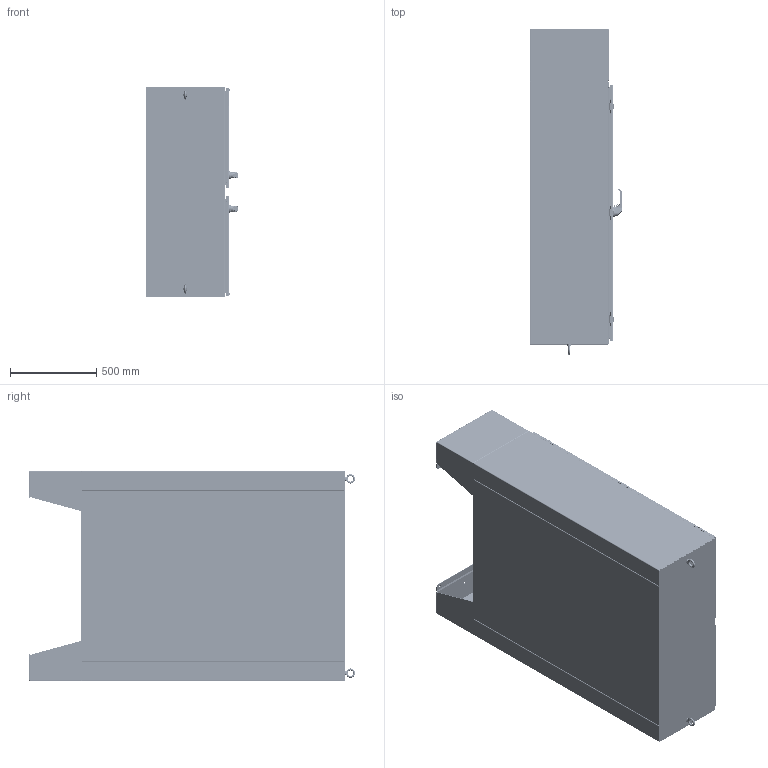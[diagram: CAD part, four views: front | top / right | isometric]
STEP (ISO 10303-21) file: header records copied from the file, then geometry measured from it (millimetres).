
FILE_DESCRIPTION((''),'2;1');
FILE_NAME('MODEL-148_ASM','2024-05-13T09:01:40',('joshi'),('SAGINAW CONTROL & ENGINEERING'),'CREO PARAMETRIC BY PTC INC, 2021284','CREO PARAMETRIC BY PTC INC, 2021284','');
FILE_SCHEMA(('AUTOMOTIVE_DESIGN { 1 0 10303 214 1 1 1 1 }'));
Length unit declared in the file: inch
Products named in the file (88): MODEL-148-BTM; MODEL-148-RS; MODEL-148-LS; MODEL-148-TP; MODEL-148-BCK; MODEL-148-RH-DR; 100837; 111267; 100882; 100955_SCREW_MTG; 100955_PADLOCK_CATCH; 100955_SCREW_LARGE; 100955_INSERT_SHAFT; 100955_INSERT_PKH; 100955_GASKET; 100955_O-RING; 100955_BASE; 100955_SPRING; 100955_HANDLE; 100955_CAM_SHAFT; 100955_HANDLE_ASM; 100955_CAM_ADAPTER; 100955_EARTH_NUT; 100955_FLANGE_NUT; 100955_CAM_NUT; 100955_KEY_INSERT; 100955_SPRING_CAM; 100955_TORSION_SPRING; 100955_SCREW_INSERT; 100955_ASM; 102236; 100030; 102236_ASM; MODEL-148-ROD-UPR-RH; 128146; 128145; 128144; 102482; MODEL-148-ROD-UPR-RH_ASM; 128143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
Assembly tree (200 placements, depth 5):
  MODEL-148_ASM
    MODEL-148-BTM
    MODEL-148-RS
    MODEL-148-LS
    MODEL-148-TP
    MODEL-148-BCK
    MODEL-148-RH-DOOR-ASSY_ASM
      MODEL-148-RH-DR
      100837  x5
      111267
      100882  x10
      100955_ASM
        100955_SCREW_MTG
        100955_PADLOCK_CATCH
        100955_SCREW_LARGE  x2
        100955_INSERT_SHAFT
        100955_INSERT_PKH
        100955_GASKET
        100955_O-RING
        100955_BASE
        100955_SPRING
        100955_HANDLE_ASM
          100955_HANDLE
          100955_CAM_SHAFT
        100955_CAM_ADAPTER
        100955_EARTH_NUT
        100955_FLANGE_NUT
        100955_CAM_NUT
        100955_KEY_INSERT
        100955_SPRING_CAM
        100955_TORSION_SPRING
        100955_SCREW_INSERT
      102236_ASM
        102236
        100030  x2
      MODEL-148-ROD-UPR-RH_ASM
        MODEL-148-ROD-UPR-RH
        128146
        128145
        128144
        102482  x2
      128143  x2
      112504  x2
      MODEL-148-ROD-LWR-RH_ASM
        MODEL-148-ROD-LWR-RH
        128146
        128145
        128144
        102482  x2
      MODEL-148-PR-GSKT-RH
      128257_ASM  x3
        128257
      126393  x3
      102483  x3
      101369_ASM  x3
        101369
        101369-STUD
      101221  x3
    MODEL-148-LH-DOOR-ASSY_ASM
      MODEL-148-LH-DR
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Bounding box: 535.45 x 1889.96 x 1219.2 mm (x, y, z)
Volume: 27868622.5 mm3; surface area: 20081388.9 mm2
Topology: 240 solids, 240 shells, 22822 faces, 57968 edges, 35598 vertices
Faces by surface type: plane 7981, cylinder 5921, bspline 5120, torus 1718, cone 1330, sphere 636, extrusion 116
Entity records: 436302 total; most frequent: CARTESIAN_POINT 169323, ORIENTED_EDGE 40230, DIRECTION 36946, PRESENTATION_STYLE_ASSIGNMENT 20976, STYLED_ITEM 20971, EDGE_CURVE 20115, CURVE_STYLE 20067, AXIS2_PLACEMENT_3D 13631
